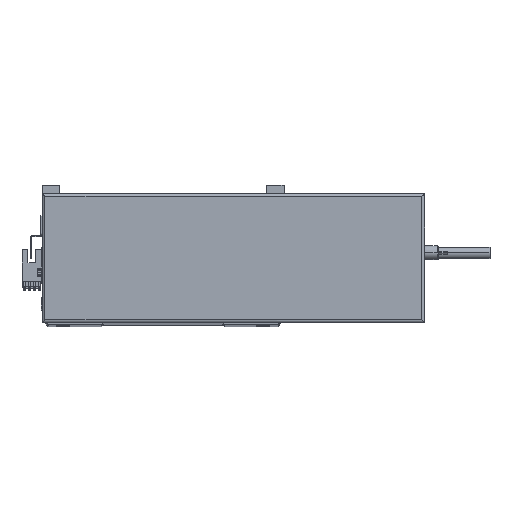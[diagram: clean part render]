
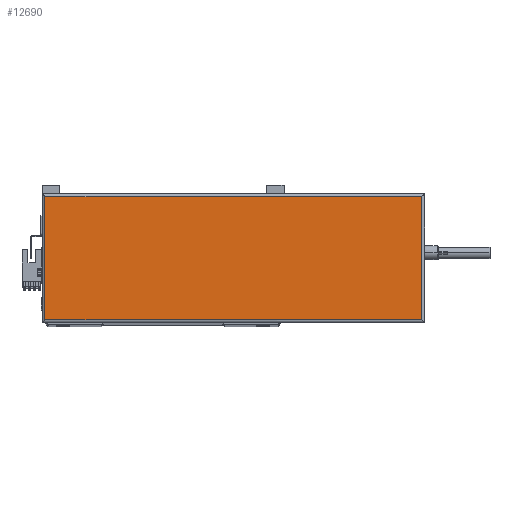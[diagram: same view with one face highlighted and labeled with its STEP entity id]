
A CAD part, top view. The second image highlights one B-rep face of the part: STEP entity #12690.
In plain terms, the highlighted planar face has unit normal (0, 0, 1).
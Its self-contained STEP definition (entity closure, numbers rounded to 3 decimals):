
#1519 = CARTESIAN_POINT ( 'NONE',  ( 133.5, 45., 44.8 ) ) ;
#1620 = DIRECTION ( 'NONE',  ( 0., -1., 0. ) ) ;
#5035 = PLANE ( 'NONE',  #9361 ) ;
#5377 = DIRECTION ( 'NONE',  ( 1., 0., 0. ) ) ;
#5567 = DIRECTION ( 'NONE',  ( 0., 0., 1. ) ) ;
#6003 = VERTEX_POINT ( 'NONE', #22915 ) ;
#9361 = AXIS2_PLACEMENT_3D ( 'NONE', #1519, #5567, #5377 ) ;
#9470 = CARTESIAN_POINT ( 'NONE',  ( 2., 0., 44.8 ) ) ;
#11561 = CARTESIAN_POINT ( 'NONE',  ( 0., 88., 44.8 ) ) ;
#12690 = ADVANCED_FACE ( 'NONE', ( #35596 ), #5035, .T. ) ;
#16413 = DIRECTION ( 'NONE',  ( 0., 1., 0. ) ) ;
#18115 = ORIENTED_EDGE ( 'NONE', *, *, #18997, .T. ) ;
#18355 = ORIENTED_EDGE ( 'NONE', *, *, #31102, .T. ) ;
#18997 = EDGE_CURVE ( 'NONE', #20928, #43071, #21449, .T. ) ;
#19918 = CARTESIAN_POINT ( 'NONE',  ( 265., 90., 44.8 ) ) ;
#20928 = VERTEX_POINT ( 'NONE', #45001 ) ;
#21449 = LINE ( 'NONE', #11561, #35264 ) ;
#22078 = EDGE_LOOP ( 'NONE', ( #26691, #18115, #18355, #45414 ) ) ;
#22126 = LINE ( 'NONE', #19918, #36564 ) ;
#22915 = CARTESIAN_POINT ( 'NONE',  ( 265., 2., 44.8 ) ) ;
#26691 = ORIENTED_EDGE ( 'NONE', *, *, #49797, .T. ) ;
#27077 = EDGE_CURVE ( 'NONE', #34853, #6003, #31855, .T. ) ;
#29209 = CARTESIAN_POINT ( 'NONE',  ( 2., 2., 44.8 ) ) ;
#31102 = EDGE_CURVE ( 'NONE', #43071, #34853, #43753, .T. ) ;
#31855 = LINE ( 'NONE', #37533, #38699 ) ;
#33683 = DIRECTION ( 'NONE',  ( 1., 0., 0. ) ) ;
#34853 = VERTEX_POINT ( 'NONE', #29209 ) ;
#35264 = VECTOR ( 'NONE', #35637, 1000. ) ;
#35596 = FACE_OUTER_BOUND ( 'NONE', #22078, .T. ) ;
#35637 = DIRECTION ( 'NONE',  ( -1., 0., 0. ) ) ;
#36224 = VECTOR ( 'NONE', #1620, 1000. ) ;
#36564 = VECTOR ( 'NONE', #16413, 1000. ) ;
#37533 = CARTESIAN_POINT ( 'NONE',  ( 267., 2., 44.8 ) ) ;
#38699 = VECTOR ( 'NONE', #33683, 1000. ) ;
#43071 = VERTEX_POINT ( 'NONE', #46744 ) ;
#43753 = LINE ( 'NONE', #9470, #36224 ) ;
#45001 = CARTESIAN_POINT ( 'NONE',  ( 265., 88., 44.8 ) ) ;
#45414 = ORIENTED_EDGE ( 'NONE', *, *, #27077, .T. ) ;
#46744 = CARTESIAN_POINT ( 'NONE',  ( 2., 88., 44.8 ) ) ;
#49797 = EDGE_CURVE ( 'NONE', #6003, #20928, #22126, .T. ) ;
